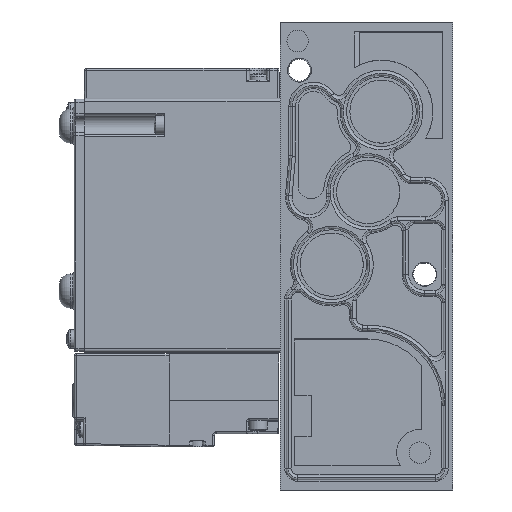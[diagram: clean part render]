
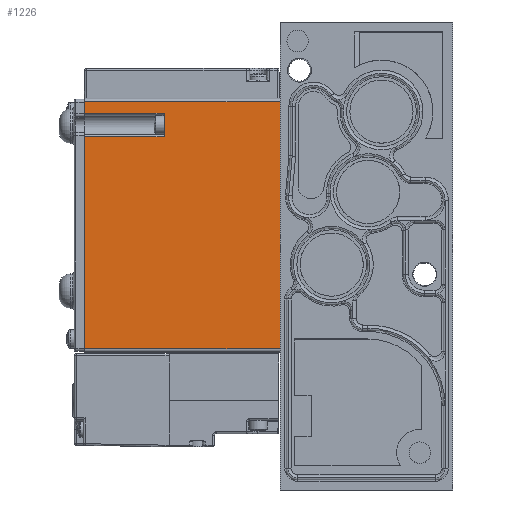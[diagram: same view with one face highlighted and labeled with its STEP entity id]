
A CAD part, left-side view. The second image highlights one B-rep face of the part: STEP entity #1226.
In plain terms, the highlighted planar face has unit normal (-1, 0, 0).
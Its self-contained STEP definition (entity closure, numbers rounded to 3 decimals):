
#1058 = VECTOR ( 'NONE', #33975, 1000. ) ;
#1226 = ADVANCED_FACE ( 'NONE', ( #35767 ), #4558, .T. ) ;
#2888 = EDGE_CURVE ( 'NONE', #50706, #89981, #34492, .T. ) ;
#3601 = LINE ( 'NONE', #25886, #1058 ) ;
#3713 = EDGE_LOOP ( 'NONE', ( #33094, #103172, #30245, #28378, #57605, #6712, #79886, #55685 ) ) ;
#4088 = CARTESIAN_POINT ( 'NONE',  ( -12., 59., 38.25 ) ) ;
#4551 = VERTEX_POINT ( 'NONE', #12917 ) ;
#4558 = PLANE ( 'NONE',  #100592 ) ;
#5488 = CARTESIAN_POINT ( 'NONE',  ( -12., 59., 37.25 ) ) ;
#6520 = VECTOR ( 'NONE', #79403, 1000. ) ;
#6712 = ORIENTED_EDGE ( 'NONE', *, *, #68929, .F. ) ;
#12917 = CARTESIAN_POINT ( 'NONE',  ( -12., 0., 37.25 ) ) ;
#17112 = CARTESIAN_POINT ( 'NONE',  ( -12., 0., -37.25 ) ) ;
#22152 = LINE ( 'NONE', #63298, #43592 ) ;
#22896 = CARTESIAN_POINT ( 'NONE',  ( -12., 35., 26.75 ) ) ;
#23276 = EDGE_CURVE ( 'NONE', #64971, #89981, #28024, .T. ) ;
#23422 = DIRECTION ( 'NONE',  ( 0., -1., 0. ) ) ;
#25886 = CARTESIAN_POINT ( 'NONE',  ( -12., 59., 37.25 ) ) ;
#28024 = LINE ( 'NONE', #22896, #6520 ) ;
#28378 = ORIENTED_EDGE ( 'NONE', *, *, #93414, .T. ) ;
#29465 = EDGE_CURVE ( 'NONE', #4551, #62354, #74351, .T. ) ;
#30245 = ORIENTED_EDGE ( 'NONE', *, *, #29465, .F. ) ;
#31333 = VECTOR ( 'NONE', #31342, 1000. ) ;
#31342 = DIRECTION ( 'NONE',  ( 0., 0., -1. ) ) ;
#31680 = CARTESIAN_POINT ( 'NONE',  ( -12., 35., 26.75 ) ) ;
#33094 = ORIENTED_EDGE ( 'NONE', *, *, #2888, .F. ) ;
#33975 = DIRECTION ( 'NONE',  ( 0., 1., 0. ) ) ;
#34492 = LINE ( 'NONE', #98043, #74968 ) ;
#35711 = EDGE_CURVE ( 'NONE', #64971, #94706, #65734, .T. ) ;
#35767 = FACE_OUTER_BOUND ( 'NONE', #3713, .T. ) ;
#36115 = EDGE_CURVE ( 'NONE', #90693, #68948, #37896, .T. ) ;
#37038 = CARTESIAN_POINT ( 'NONE',  ( -12., 59., 38.25 ) ) ;
#37288 = DIRECTION ( 'NONE',  ( 0., 1., 0. ) ) ;
#37682 = CARTESIAN_POINT ( 'NONE',  ( -12., 35., 26.75 ) ) ;
#37896 = LINE ( 'NONE', #4088, #99930 ) ;
#39411 = CARTESIAN_POINT ( 'NONE',  ( -12., 59., 26.75 ) ) ;
#41491 = DIRECTION ( 'NONE',  ( 0., 0., 1. ) ) ;
#43592 = VECTOR ( 'NONE', #23422, 1000. ) ;
#44350 = DIRECTION ( 'NONE',  ( 0., 0., 1. ) ) ;
#45149 = DIRECTION ( 'NONE',  ( 0., 0., 1. ) ) ;
#45789 = DIRECTION ( 'NONE',  ( 0., 0., 1. ) ) ;
#48332 = CARTESIAN_POINT ( 'NONE',  ( -12., 59., -37.25 ) ) ;
#50706 = VERTEX_POINT ( 'NONE', #48332 ) ;
#55685 = ORIENTED_EDGE ( 'NONE', *, *, #23276, .T. ) ;
#57605 = ORIENTED_EDGE ( 'NONE', *, *, #36115, .F. ) ;
#59344 = CARTESIAN_POINT ( 'NONE',  ( -12., 59., 33.75 ) ) ;
#62354 = VERTEX_POINT ( 'NONE', #17112 ) ;
#63298 = CARTESIAN_POINT ( 'NONE',  ( -12., 0., -37.25 ) ) ;
#64971 = VERTEX_POINT ( 'NONE', #31680 ) ;
#65734 = LINE ( 'NONE', #37682, #103795 ) ;
#68929 = EDGE_CURVE ( 'NONE', #94706, #90693, #103306, .T. ) ;
#68948 = VERTEX_POINT ( 'NONE', #5488 ) ;
#69397 = CARTESIAN_POINT ( 'NONE',  ( -12., 35., 33.75 ) ) ;
#69495 = EDGE_CURVE ( 'NONE', #50706, #62354, #22152, .T. ) ;
#74351 = LINE ( 'NONE', #79818, #31333 ) ;
#74968 = VECTOR ( 'NONE', #41491, 1000. ) ;
#76676 = VECTOR ( 'NONE', #37288, 1000. ) ;
#79403 = DIRECTION ( 'NONE',  ( 0., 1., 0. ) ) ;
#79818 = CARTESIAN_POINT ( 'NONE',  ( -12., 0., 38.25 ) ) ;
#79886 = ORIENTED_EDGE ( 'NONE', *, *, #35711, .F. ) ;
#84654 = CARTESIAN_POINT ( 'NONE',  ( -12., 35., 33.75 ) ) ;
#89981 = VERTEX_POINT ( 'NONE', #39411 ) ;
#90693 = VERTEX_POINT ( 'NONE', #59344 ) ;
#93414 = EDGE_CURVE ( 'NONE', #4551, #68948, #3601, .T. ) ;
#93572 = DIRECTION ( 'NONE',  ( -1., 0., 0. ) ) ;
#94706 = VERTEX_POINT ( 'NONE', #84654 ) ;
#98043 = CARTESIAN_POINT ( 'NONE',  ( -12., 59., 38.25 ) ) ;
#99930 = VECTOR ( 'NONE', #44350, 1000. ) ;
#100592 = AXIS2_PLACEMENT_3D ( 'NONE', #37038, #93572, #45149 ) ;
#103172 = ORIENTED_EDGE ( 'NONE', *, *, #69495, .T. ) ;
#103306 = LINE ( 'NONE', #69397, #76676 ) ;
#103795 = VECTOR ( 'NONE', #45789, 1000. ) ;
